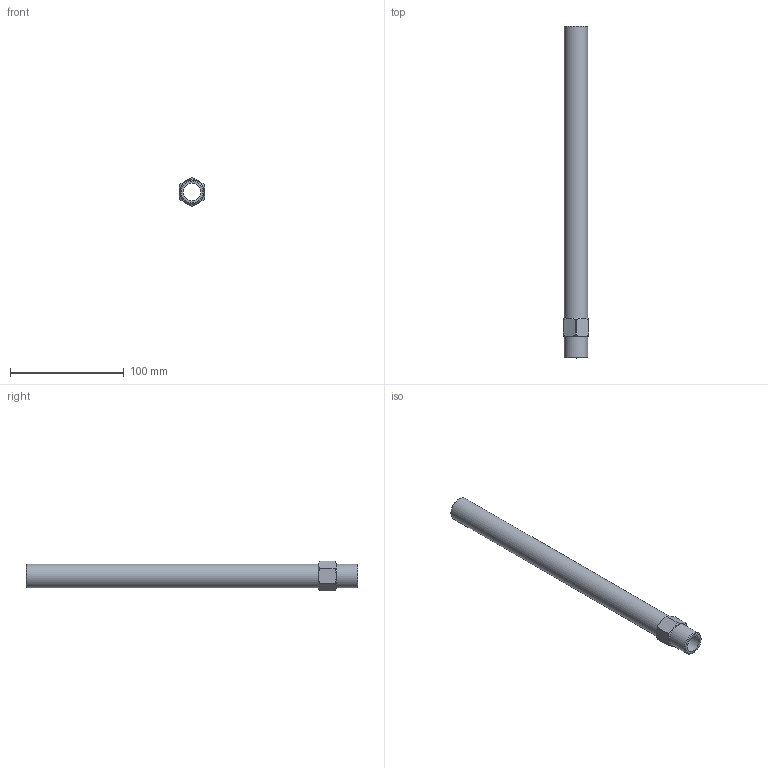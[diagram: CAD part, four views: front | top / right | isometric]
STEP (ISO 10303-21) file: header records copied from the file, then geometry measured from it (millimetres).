
FILE_DESCRIPTION(/* description */ (''),/* implementation_level */ '2;1');
FILE_NAME(/* name */ 'C:/Users/drich/Desktop/APN12-11-1_2 v1.step',/* time_stamp */ '2019-12-27T17:42:20-06:00',/* author */ (''),/* organization */ (''),/* preprocessor_version */ 'ST-DEVELOPER v18',/* originating_system */ 'Autodesk Translation Framework v8.12.0.6',/* authorisation */ '');
FILE_SCHEMA (('AUTOMOTIVE_DESIGN { 1 0 10303 214 3 1 1 }'));
Length unit declared in the file: inch
Products named in the file (1): APN12-11-1_2
Bounding box: 22.23 x 292.1 x 25.65 mm (x, y, z)
Volume: 48815.8 mm3; surface area: 33461.4 mm2
Topology: 1 solids, 1 shells, 23 faces, 59 edges, 40 vertices
Faces by surface type: plane 10, cylinder 9, cone 4
Full cylindrical faces by diameter (mm): 15.037 x1, 20.813 x2
Entity records: 751 total; most frequent: CARTESIAN_POINT 147, DIRECTION 123, ORIENTED_EDGE 118, EDGE_CURVE 59, AXIS2_PLACEMENT_3D 52, VERTEX_POINT 40, CIRCLE 28, EDGE_LOOP 27
